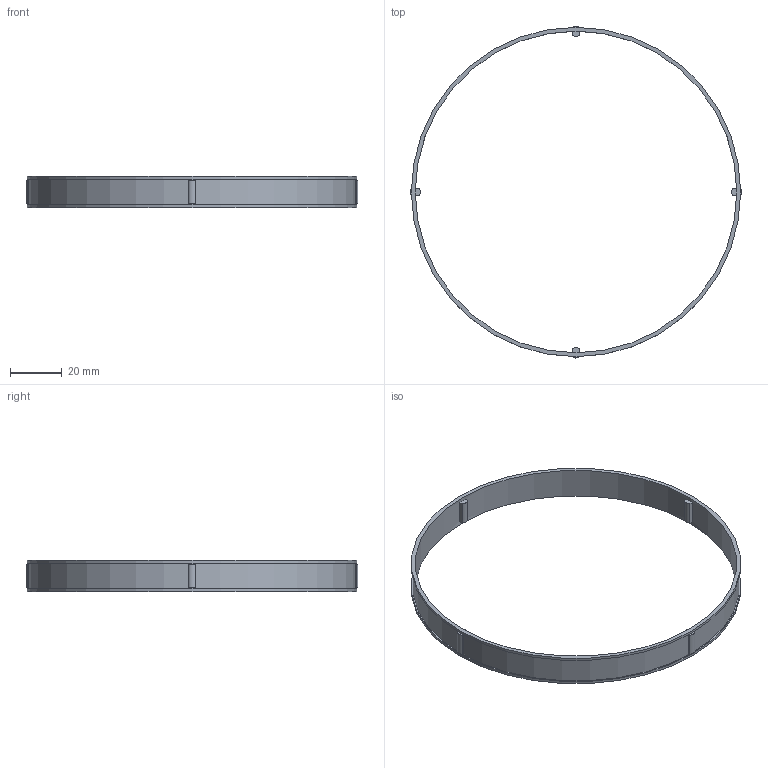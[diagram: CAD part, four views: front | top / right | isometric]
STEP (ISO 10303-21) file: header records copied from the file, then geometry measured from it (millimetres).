
FILE_DESCRIPTION(/* description */ (''),/* implementation_level */ '2;1');
FILE_NAME(/* name */ '300522 FE 528 Z.stp',/* time_stamp */ '2016-11-03T10:44:59+01:00',/* author */ (''),/* organization */ (''),/* preprocessor_version */ 'ST-DEVELOPER v15',/* originating_system */ 'SIEMENS PLM Software NX 8.5',/* authorisation */ '');
FILE_SCHEMA (('CONFIG_CONTROL_DESIGN'));
Length unit declared in the file: millimetre
Products named in the file (1): ATE0000080_01
Bounding box: 128 x 128 x 12 mm (x, y, z)
Volume: 5385.4 mm3; surface area: 11221.8 mm2
Topology: 1 solids, 1 shells, 48 faces, 114 edges, 76 vertices
Faces by surface type: plane 36, cylinder 12
Full cylindrical faces by diameter (mm): 124 x1, 126 x1, 127 x2
Entity records: 1420 total; most frequent: DIRECTION 242, CARTESIAN_POINT 225, ORIENTED_EDGE 208, EDGE_CURVE 104, AXIS2_PLACEMENT_3D 89, VERTEX_POINT 72, LINE 64, VECTOR 64
